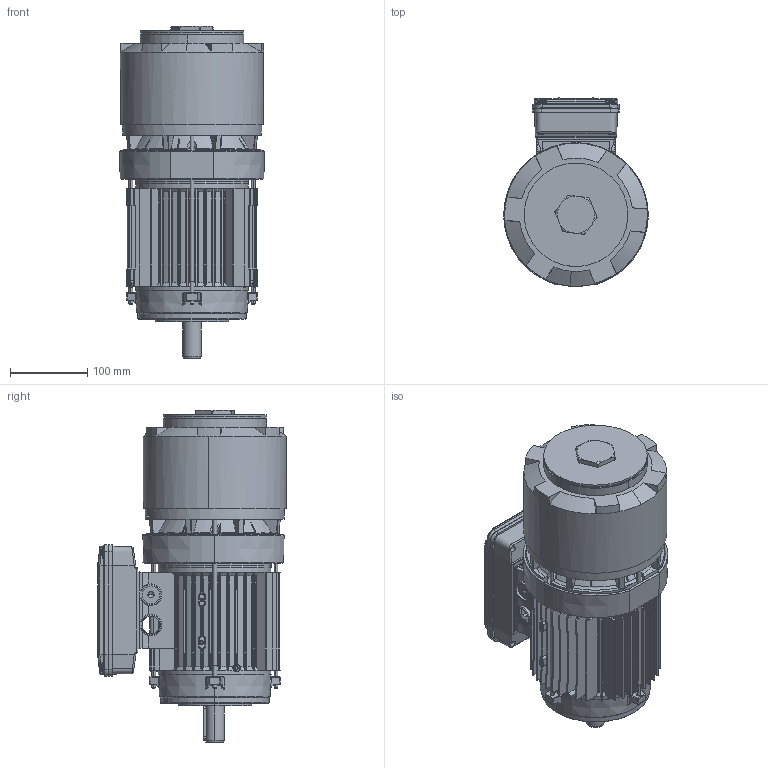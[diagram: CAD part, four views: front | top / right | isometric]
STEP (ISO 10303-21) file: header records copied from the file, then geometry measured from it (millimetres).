
FILE_DESCRIPTION (( 'STEP AP214' ), '1' );
FILE_NAME ('M08EC0010.STEP', '2020-11-03T11:06:54', ( '' ), ( '' ), 'SwSTEP 2.0', 'SolidWorks 2018', '' );
FILE_SCHEMA (( 'AUTOMOTIVE_DESIGN' ));
Length unit declared in the file: millimetre
Products named in the file (17): Scudo Lato Freno BA90 P1 - DDAE0094; Carcassa 90 S B5; M08EC0010; Tappo a testa Esagonale M40x1,5; Ventola BA 90 - NT; Albero BA 90 L; Vite BAH 80; Cuffia BAH 90 - DDGV0017; Scatola per Morsettiera Doppia 90-100-112 - Completa; Guarnizione Coperchio Semplice Scatola BA 90 100 112 - DDAL0094; Vite per coperchio morsettiera; Coperchio per Scatola per Morsettiera Doppia 90-100-112; Scatola per Morsettiera Doppia 90-100-112; Tirante BA 90S - DBA60094; Scudo a flangia B14 BA-BM 90 - DDAC0094; Chiavetta 90; Convogliatore con pista d''attrito P2 BAH 90 - DDGY0018
Assembly tree (22 placements, depth 3):
  M08EC0010
    Carcassa 90 S B5
    Scudo Lato Freno BA90 P1 - DDAE0094
    Convogliatore con pista d''attrito P2 BAH 90 - DDGY0018
    Chiavetta 90
    Scudo a flangia B14 BA-BM 90 - DDAC0094
    Tirante BA 90S - DBA60094  x4
    Scatola per Morsettiera Doppia 90-100-112 - Completa
      Scatola per Morsettiera Doppia 90-100-112
      Coperchio per Scatola per Morsettiera Doppia 90-100-112
      Vite per coperchio morsettiera  x4
      Guarnizione Coperchio Semplice Scatola BA 90 100 112 - DDAL0094
    Cuffia BAH 90 - DDGV0017
    Vite BAH 80
    Albero BA 90 L
    Ventola BA 90 - NT
    Tappo a testa Esagonale M40x1,5
Bounding box: 187 x 243.95 x 429 mm (x, y, z)
Volume: 2116994 mm3; surface area: 1026996.2 mm2
Topology: 25 solids, 25 shells, 3772 faces, 10077 edges, 6375 vertices
Faces by surface type: plane 1358, cylinder 1305, torus 476, cone 396, bspline 235, sphere 2
Entity records: 131582 total; most frequent: CARTESIAN_POINT 44834, ORIENTED_EDGE 18970, DIRECTION 16862, EDGE_CURVE 9485, AXIS2_PLACEMENT_3D 6532, VERTEX_POINT 6045, LINE 3798, VECTOR 3798
